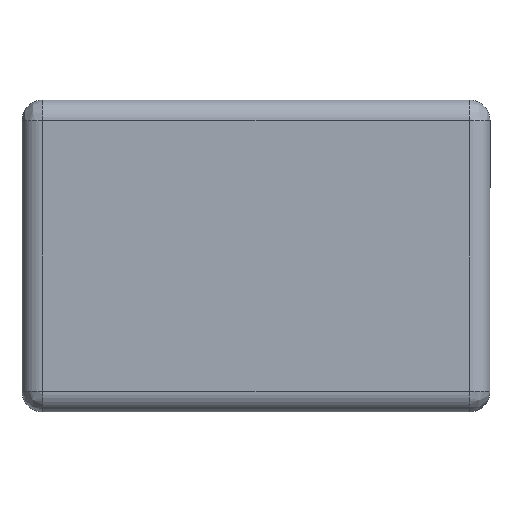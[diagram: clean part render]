
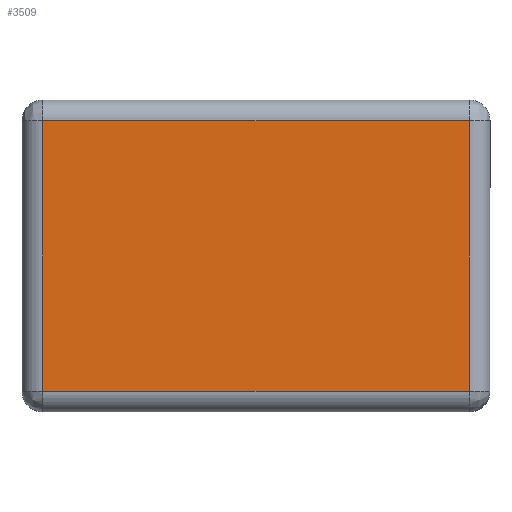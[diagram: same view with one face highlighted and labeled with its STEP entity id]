
A CAD part, front view. The second image highlights one B-rep face of the part: STEP entity #3509.
In plain terms, the highlighted planar face has unit normal (0, -1, 0).
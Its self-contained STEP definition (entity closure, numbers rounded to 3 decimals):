
#107 = ORIENTED_EDGE ( 'NONE', *, *, #7360, .F. ) ;
#960 = ORIENTED_EDGE ( 'NONE', *, *, #5815, .F. ) ;
#1207 = CARTESIAN_POINT ( 'NONE',  ( -20.5, 0., 13. ) ) ;
#1560 = EDGE_CURVE ( 'NONE', #3724, #11023, #7837, .T. ) ;
#1584 = CARTESIAN_POINT ( 'NONE',  ( 0., 0., 13. ) ) ;
#1628 = DIRECTION ( 'NONE',  ( 0., 0., 1. ) ) ;
#1661 = CARTESIAN_POINT ( 'NONE',  ( 20.5, 0., 0. ) ) ;
#1906 = CARTESIAN_POINT ( 'NONE',  ( 0., 0., -13. ) ) ;
#2501 = AXIS2_PLACEMENT_3D ( 'NONE', #9876, #10833, #4451 ) ;
#2571 = CARTESIAN_POINT ( 'NONE',  ( 20.5, 0., -13. ) ) ;
#2813 = EDGE_LOOP ( 'NONE', ( #6048, #107, #960, #5003 ) ) ;
#3477 = EDGE_CURVE ( 'NONE', #9014, #3724, #6101, .T. ) ;
#3509 = ADVANCED_FACE ( 'NONE', ( #9517 ), #6270, .F. ) ;
#3724 = VERTEX_POINT ( 'NONE', #1207 ) ;
#4303 = LINE ( 'NONE', #1661, #11180 ) ;
#4451 = DIRECTION ( 'NONE',  ( 0., 0., 1. ) ) ;
#4482 = DIRECTION ( 'NONE',  ( 0., 0., -1. ) ) ;
#5003 = ORIENTED_EDGE ( 'NONE', *, *, #1560, .F. ) ;
#5500 = DIRECTION ( 'NONE',  ( -1., 0., 0. ) ) ;
#5815 = EDGE_CURVE ( 'NONE', #11023, #10537, #4303, .T. ) ;
#6048 = ORIENTED_EDGE ( 'NONE', *, *, #3477, .F. ) ;
#6101 = LINE ( 'NONE', #9702, #10810 ) ;
#6270 = PLANE ( 'NONE',  #2501 ) ;
#6493 = CARTESIAN_POINT ( 'NONE',  ( 20.5, 0., 13. ) ) ;
#6994 = LINE ( 'NONE', #1906, #7403 ) ;
#7360 = EDGE_CURVE ( 'NONE', #10537, #9014, #6994, .T. ) ;
#7403 = VECTOR ( 'NONE', #5500, 1000. ) ;
#7837 = LINE ( 'NONE', #1584, #8388 ) ;
#8388 = VECTOR ( 'NONE', #11453, 1000. ) ;
#9014 = VERTEX_POINT ( 'NONE', #11375 ) ;
#9517 = FACE_OUTER_BOUND ( 'NONE', #2813, .T. ) ;
#9702 = CARTESIAN_POINT ( 'NONE',  ( -20.5, 0., 0. ) ) ;
#9876 = CARTESIAN_POINT ( 'NONE',  ( 0., 0., 0. ) ) ;
#10537 = VERTEX_POINT ( 'NONE', #2571 ) ;
#10810 = VECTOR ( 'NONE', #1628, 1000. ) ;
#10833 = DIRECTION ( 'NONE',  ( 0., 1., 0. ) ) ;
#11023 = VERTEX_POINT ( 'NONE', #6493 ) ;
#11180 = VECTOR ( 'NONE', #4482, 1000. ) ;
#11375 = CARTESIAN_POINT ( 'NONE',  ( -20.5, 0., -13. ) ) ;
#11453 = DIRECTION ( 'NONE',  ( 1., 0., 0. ) ) ;
